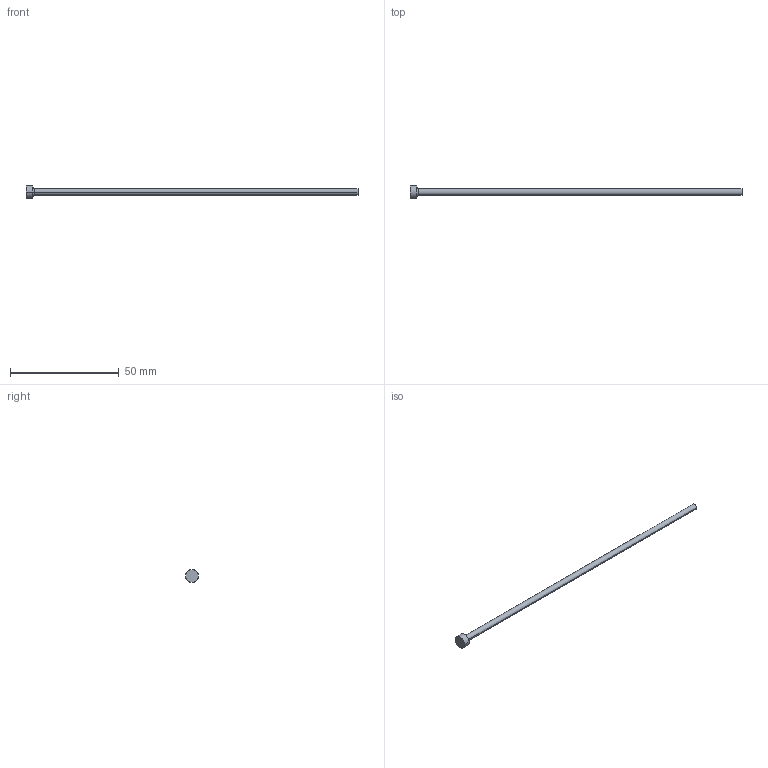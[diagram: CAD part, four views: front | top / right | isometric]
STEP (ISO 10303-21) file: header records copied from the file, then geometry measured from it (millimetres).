
FILE_DESCRIPTION (( 'STEP AP214' ), '1' );
FILE_NAME ('P8-6.STEP', '2020-03-11T17:15:16', ( '' ), ( '' ), 'SwSTEP 2.0', 'SolidWorks 2018', '' );
FILE_SCHEMA (( 'AUTOMOTIVE_DESIGN' ));
Length unit declared in the file: inch
Products named in the file (1): P8-6
Bounding box: 152.4 x 5.95 x 5.95 mm (x, y, z)
Volume: 989 mm3; surface area: 1409 mm2
Topology: 1 solids, 1 shells, 13 faces, 24 edges, 14 vertices
Faces by surface type: cone 4, cylinder 4, plane 3, torus 2
Entity records: 366 total; most frequent: DIRECTION 68, CARTESIAN_POINT 52, ORIENTED_EDGE 48, AXIS2_PLACEMENT_3D 30, EDGE_CURVE 24, CIRCLE 16, EDGE_LOOP 14, VERTEX_POINT 14
